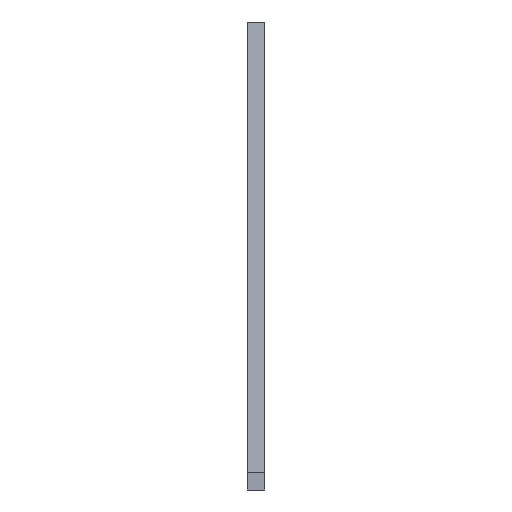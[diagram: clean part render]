
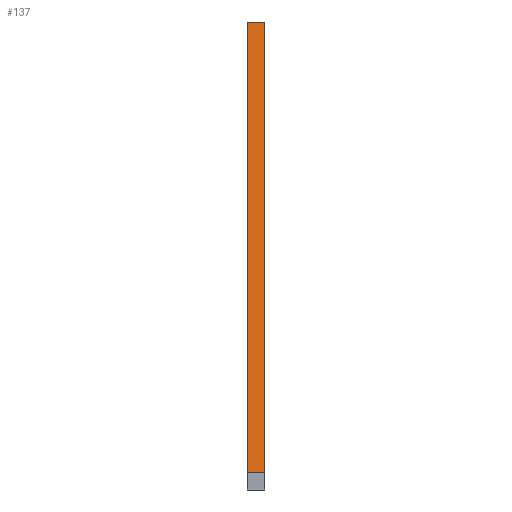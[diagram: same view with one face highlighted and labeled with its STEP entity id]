
A CAD part, left-side view. The second image highlights one B-rep face of the part: STEP entity #137.
In plain terms, the highlighted planar face has unit normal (-0.431, 0, 0.902).
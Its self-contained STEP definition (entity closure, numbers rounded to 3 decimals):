
#21 = EDGE_CURVE('',#22,#24,#26,.T.);
#22 = VERTEX_POINT('',#23);
#23 = CARTESIAN_POINT('',(7.764,50.,18.));
#24 = VERTEX_POINT('',#25);
#25 = CARTESIAN_POINT('',(7.764,68.,18.));
#26 = SURFACE_CURVE('',#27,(#31,#43),.PCURVE_S1.);
#27 = LINE('',#28,#29);
#28 = CARTESIAN_POINT('',(7.764,50.,18.));
#29 = VECTOR('',#30,1.);
#30 = DIRECTION('',(0.,1.,0.));
#31 = PCURVE('',#32,#37);
#32 = PLANE('',#33);
#33 = AXIS2_PLACEMENT_3D('',#34,#35,#36);
#34 = CARTESIAN_POINT('',(7.764,50.,18.));
#35 = DIRECTION('',(0.,0.,-1.));
#36 = DIRECTION('',(1.,0.,0.));
#37 = DEFINITIONAL_REPRESENTATION('',(#38),#42);
#38 = LINE('',#39,#40);
#39 = CARTESIAN_POINT('',(0.,0.));
#40 = VECTOR('',#41,1.);
#41 = DIRECTION('',(0.,-1.));
#42 = ( GEOMETRIC_REPRESENTATION_CONTEXT(2) 
PARAMETRIC_REPRESENTATION_CONTEXT() REPRESENTATION_CONTEXT('2D SPACE',''
  ) );
#43 = PCURVE('',#44,#49);
#44 = PLANE('',#45);
#45 = AXIS2_PLACEMENT_3D('',#46,#47,#48);
#46 = CARTESIAN_POINT('',(982.,50.,483.76));
#47 = DIRECTION('',(-0.431,0.,0.902));
#48 = DIRECTION('',(-0.902,0.,-0.431));
#49 = DEFINITIONAL_REPRESENTATION('',(#50),#54);
#50 = LINE('',#51,#52);
#51 = CARTESIAN_POINT('',(1079.847,0.));
#52 = VECTOR('',#53,1.);
#53 = DIRECTION('',(0.,-1.));
#54 = ( GEOMETRIC_REPRESENTATION_CONTEXT(2) 
PARAMETRIC_REPRESENTATION_CONTEXT() REPRESENTATION_CONTEXT('2D SPACE',''
  ) );
#72 = PLANE('',#73);
#73 = AXIS2_PLACEMENT_3D('',#74,#75,#76);
#74 = CARTESIAN_POINT('',(593.685,68.,154.079));
#75 = DIRECTION('',(-0.,-1.,-0.));
#76 = DIRECTION('',(0.,0.,-1.));
#126 = PLANE('',#127);
#127 = AXIS2_PLACEMENT_3D('',#128,#129,#130);
#128 = CARTESIAN_POINT('',(593.685,50.,154.079));
#129 = DIRECTION('',(-0.,-1.,-0.));
#130 = DIRECTION('',(0.,0.,-1.));
#137 = ADVANCED_FACE('',(#138),#44,.T.);
#138 = FACE_BOUND('',#139,.T.);
#139 = EDGE_LOOP('',(#140,#170,#191,#192));
#140 = ORIENTED_EDGE('',*,*,#141,.T.);
#141 = EDGE_CURVE('',#142,#144,#146,.T.);
#142 = VERTEX_POINT('',#143);
#143 = CARTESIAN_POINT('',(982.,50.,483.76));
#144 = VERTEX_POINT('',#145);
#145 = CARTESIAN_POINT('',(982.,68.,483.76));
#146 = SURFACE_CURVE('',#147,(#151,#158),.PCURVE_S1.);
#147 = LINE('',#148,#149);
#148 = CARTESIAN_POINT('',(982.,50.,483.76));
#149 = VECTOR('',#150,1.);
#150 = DIRECTION('',(0.,1.,0.));
#151 = PCURVE('',#44,#152);
#152 = DEFINITIONAL_REPRESENTATION('',(#153),#157);
#153 = LINE('',#154,#155);
#154 = CARTESIAN_POINT('',(0.,0.));
#155 = VECTOR('',#156,1.);
#156 = DIRECTION('',(0.,-1.));
#157 = ( GEOMETRIC_REPRESENTATION_CONTEXT(2) 
PARAMETRIC_REPRESENTATION_CONTEXT() REPRESENTATION_CONTEXT('2D SPACE',''
  ) );
#158 = PCURVE('',#159,#164);
#159 = PLANE('',#160);
#160 = AXIS2_PLACEMENT_3D('',#161,#162,#163);
#161 = CARTESIAN_POINT('',(982.,50.,350.));
#162 = DIRECTION('',(1.,0.,0.));
#163 = DIRECTION('',(0.,0.,1.));
#164 = DEFINITIONAL_REPRESENTATION('',(#165),#169);
#165 = LINE('',#166,#167);
#166 = CARTESIAN_POINT('',(133.76,0.));
#167 = VECTOR('',#168,1.);
#168 = DIRECTION('',(0.,-1.));
#169 = ( GEOMETRIC_REPRESENTATION_CONTEXT(2) 
PARAMETRIC_REPRESENTATION_CONTEXT() REPRESENTATION_CONTEXT('2D SPACE',''
  ) );
#170 = ORIENTED_EDGE('',*,*,#171,.T.);
#171 = EDGE_CURVE('',#144,#24,#172,.T.);
#172 = SURFACE_CURVE('',#173,(#177,#184),.PCURVE_S1.);
#173 = LINE('',#174,#175);
#174 = CARTESIAN_POINT('',(982.,68.,483.76));
#175 = VECTOR('',#176,1.);
#176 = DIRECTION('',(-0.902,0.,-0.431));
#177 = PCURVE('',#44,#178);
#178 = DEFINITIONAL_REPRESENTATION('',(#179),#183);
#179 = LINE('',#180,#181);
#180 = CARTESIAN_POINT('',(0.,-18.));
#181 = VECTOR('',#182,1.);
#182 = DIRECTION('',(1.,0.));
#183 = ( GEOMETRIC_REPRESENTATION_CONTEXT(2) 
PARAMETRIC_REPRESENTATION_CONTEXT() REPRESENTATION_CONTEXT('2D SPACE',''
  ) );
#184 = PCURVE('',#72,#185);
#185 = DEFINITIONAL_REPRESENTATION('',(#186),#190);
#186 = LINE('',#187,#188);
#187 = CARTESIAN_POINT('',(-329.681,388.315));
#188 = VECTOR('',#189,1.);
#189 = DIRECTION('',(0.431,-0.902));
#190 = ( GEOMETRIC_REPRESENTATION_CONTEXT(2) 
PARAMETRIC_REPRESENTATION_CONTEXT() REPRESENTATION_CONTEXT('2D SPACE',''
  ) );
#191 = ORIENTED_EDGE('',*,*,#21,.F.);
#192 = ORIENTED_EDGE('',*,*,#193,.F.);
#193 = EDGE_CURVE('',#142,#22,#194,.T.);
#194 = SURFACE_CURVE('',#195,(#199,#206),.PCURVE_S1.);
#195 = LINE('',#196,#197);
#196 = CARTESIAN_POINT('',(982.,50.,483.76));
#197 = VECTOR('',#198,1.);
#198 = DIRECTION('',(-0.902,0.,-0.431));
#199 = PCURVE('',#44,#200);
#200 = DEFINITIONAL_REPRESENTATION('',(#201),#205);
#201 = LINE('',#202,#203);
#202 = CARTESIAN_POINT('',(0.,0.));
#203 = VECTOR('',#204,1.);
#204 = DIRECTION('',(1.,0.));
#205 = ( GEOMETRIC_REPRESENTATION_CONTEXT(2) 
PARAMETRIC_REPRESENTATION_CONTEXT() REPRESENTATION_CONTEXT('2D SPACE',''
  ) );
#206 = PCURVE('',#126,#207);
#207 = DEFINITIONAL_REPRESENTATION('',(#208),#212);
#208 = LINE('',#209,#210);
#209 = CARTESIAN_POINT('',(-329.681,388.315));
#210 = VECTOR('',#211,1.);
#211 = DIRECTION('',(0.431,-0.902));
#212 = ( GEOMETRIC_REPRESENTATION_CONTEXT(2) 
PARAMETRIC_REPRESENTATION_CONTEXT() REPRESENTATION_CONTEXT('2D SPACE',''
  ) );
